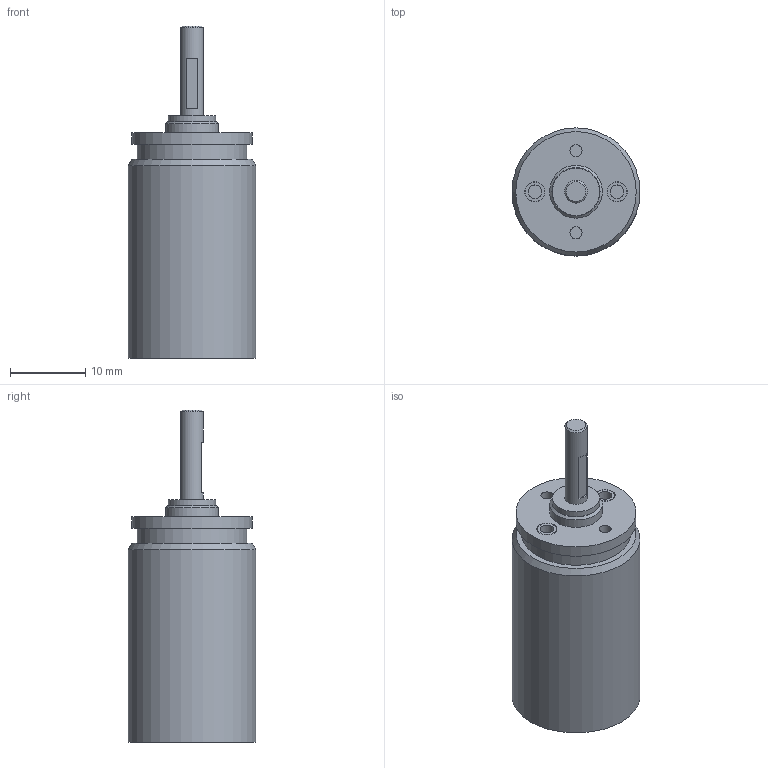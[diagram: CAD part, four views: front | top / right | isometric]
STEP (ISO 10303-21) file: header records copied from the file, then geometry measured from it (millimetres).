
FILE_DESCRIPTION(/* description */ (''),/* implementation_level */ '2;1');
FILE_NAME(/* name */ '16-8_3.stp',/* time_stamp */ '2016-08-25T11:48:29+02:00',/* author */ ('DR. FRITZ FAULHABER GmbH & Co. KG'),/* organization */ ('DR. FRITZ FAULHABER GmbH & Co. KG'),/* preprocessor_version */ 'ST-DEVELOPER v16',/* originating_system */ 'SIEMENS PLM Software NX 10.0',/* authorisation */ '');
FILE_SCHEMA (('AUTOMOTIVE_DESIGN { 1 0 10303 214 3 1 1 1 }'));
Length unit declared in the file: millimetre
Products named in the file (1): H00000450_A
Bounding box: 17 x 17 x 44.1 mm (x, y, z)
Volume: 4097.8 mm3; surface area: 3001.8 mm2
Topology: 1 solids, 1 shells, 41 faces, 65 edges, 43 vertices
Faces by surface type: plane 21, cylinder 17, cone 3
Full cylindrical faces by diameter (mm): 1.6 x2, 1.8 x2, 2.48 x1, 2.584 x2, 2.684 x2, 3 x1, 6 x1, 6.3 x1, 7 x1, 14.5 x1, 16 x2, 17 x1
Entity records: 856 total; most frequent: DIRECTION 166, CARTESIAN_POINT 126, ORIENTED_EDGE 86, AXIS2_PLACEMENT_3D 81, EDGE_LOOP 78, FACE_BOUND 69, EDGE_CURVE 43, ADVANCED_FACE 41
